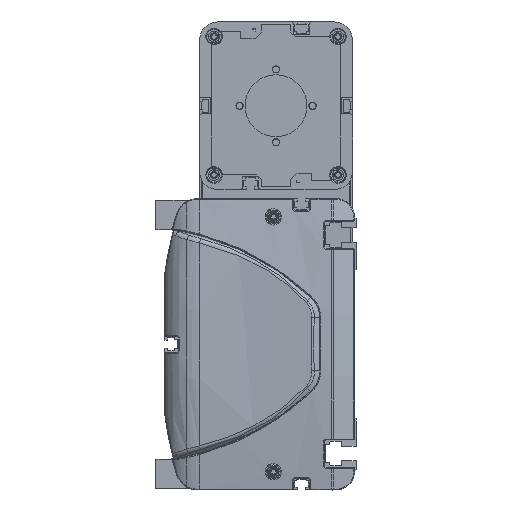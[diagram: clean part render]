
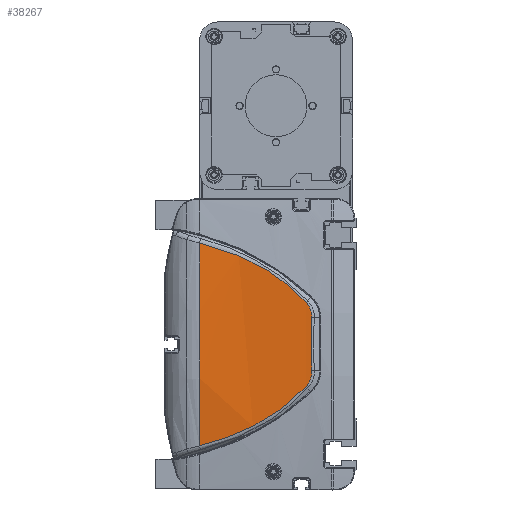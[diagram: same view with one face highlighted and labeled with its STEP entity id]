
A CAD part, left-side view. The second image highlights one B-rep face of the part: STEP entity #38267.
In plain terms, the highlighted cylindrical face has radius 600 mm (diameter 1200 mm), a partial arc.
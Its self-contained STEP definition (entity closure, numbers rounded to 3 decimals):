
#9556=CARTESIAN_POINT('',(-12.406,86.,55.736));
#9557=CARTESIAN_POINT('',(-12.529,80.495,54.41));
#9558=CARTESIAN_POINT('',(-12.828,69.636,51.114));
#9559=CARTESIAN_POINT('',(-13.389,54.079,44.179));
#9560=CARTESIAN_POINT('',(-14.01,39.709,34.979));
#9561=CARTESIAN_POINT('',(-14.395,31.353,27.243));
#9562=CARTESIAN_POINT('',(-14.555,27.451,23.113));
#9564=CARTESIAN_POINT('',(-14.555,27.451,23.113));
#9565=CARTESIAN_POINT('',(-14.598,26.394,21.994));
#9566=CARTESIAN_POINT('',(-14.695,24.746,19.315));
#9567=CARTESIAN_POINT('',(-14.783,24.276,16.208));
#9568=CARTESIAN_POINT('',(-14.821,24.351,14.67));
#9570=CARTESIAN_POINT('',(-14.821,24.351,14.67));
#9571=CARTESIAN_POINT('',(-14.9,24.51,11.413));
#9572=CARTESIAN_POINT('',(-15.007,24.721,4.895));
#9573=CARTESIAN_POINT('',(-15.007,24.721,
-4.895));
#9574=CARTESIAN_POINT('',(-14.9,24.51,
-11.413));
#9575=CARTESIAN_POINT('',(-14.821,24.351,
-14.67));
#9577=CARTESIAN_POINT('',(-14.821,24.351,
-14.67));
#9578=CARTESIAN_POINT('',(-14.783,24.276,
-16.208));
#9579=CARTESIAN_POINT('',(-14.695,24.746,
-19.315));
#9580=CARTESIAN_POINT('',(-14.598,26.394,
-21.995));
#9581=CARTESIAN_POINT('',(-14.555,27.451,
-23.113));
#9583=CARTESIAN_POINT('',(-14.555,27.451,
-23.113));
#9584=CARTESIAN_POINT('',(-14.395,31.353,
-27.243));
#9585=CARTESIAN_POINT('',(-14.01,39.709,
-34.979));
#9586=CARTESIAN_POINT('',(-13.389,54.079,
-44.179));
#9587=CARTESIAN_POINT('',(-12.828,69.636,
-51.114));
#9588=CARTESIAN_POINT('',(-12.529,80.495,
-54.41));
#9589=CARTESIAN_POINT('',(-12.406,86.,
-55.736));
#9591=CARTESIAN_POINT('',(585.,86.,0.));
#9592=DIRECTION('',(0.,1.,0.));
#9593=DIRECTION('',(-0.996,0.,-0.093));
#9594=AXIS2_PLACEMENT_3D('',#9591,#9592,#9593);
#9607=CARTESIAN_POINT('',(-12.406,86.,55.736));
#21534=VERTEX_POINT('',#9607);
#21535=CARTESIAN_POINT('',(-12.406,86.,
-55.736));
#21536=VERTEX_POINT('',#21535);
#21586=VERTEX_POINT('',#9562);
#21587=VERTEX_POINT('',#9568);
#21588=VERTEX_POINT('',#9575);
#21589=VERTEX_POINT('',#9581);
#38249=CARTESIAN_POINT('',(585.,87.45,0.));
#38250=DIRECTION('',(0.,-1.,0.));
#38251=DIRECTION('',(0.,0.,-1.));
#38252=AXIS2_PLACEMENT_3D('',#38249,#38250,#38251);
#38253=CYLINDRICAL_SURFACE('',#38252,600.);
#38255=ORIENTED_EDGE('',*,*,#38254,.T.);
#38257=ORIENTED_EDGE('',*,*,#38256,.T.);
#38259=ORIENTED_EDGE('',*,*,#38258,.T.);
#38260=ORIENTED_EDGE('',*,*,#38239,.T.);
#38262=ORIENTED_EDGE('',*,*,#38261,.T.);
#38264=ORIENTED_EDGE('',*,*,#38263,.T.);
#38265=EDGE_LOOP('',(#38255,#38257,#38259,#38260,#38262,#38264));
#38266=FACE_OUTER_BOUND('',#38265,.F.);
#38267=ADVANCED_FACE('',(#38266),#38253,.T.);
#9563=B_SPLINE_CURVE_WITH_KNOTS('',3,(#9556,#9557,#9558,#9559,#9560,#9561,
#9562),.UNSPECIFIED.,.F.,.F.,(4,1,1,1,4),(0.,0.25,0.5,0.75,1.),
.UNSPECIFIED.);
#9569=B_SPLINE_CURVE_WITH_KNOTS('',3,(#9564,#9565,#9566,#9567,#9568),
.UNSPECIFIED.,.F.,.F.,(4,1,4),(0.,0.5,1.),.UNSPECIFIED.);
#9576=B_SPLINE_CURVE_WITH_KNOTS('',3,(#9570,#9571,#9572,#9573,#9574,#9575),
.UNSPECIFIED.,.F.,.F.,(4,1,1,4),(0.,0.333,0.667,1.),
.UNSPECIFIED.);
#9582=B_SPLINE_CURVE_WITH_KNOTS('',3,(#9577,#9578,#9579,#9580,#9581),
.UNSPECIFIED.,.F.,.F.,(4,1,4),(0.,0.5,1.),.UNSPECIFIED.);
#9590=B_SPLINE_CURVE_WITH_KNOTS('',3,(#9583,#9584,#9585,#9586,#9587,#9588,
#9589),.UNSPECIFIED.,.F.,.F.,(4,1,1,1,4),(0.,0.25,0.5,0.75,1.),
.UNSPECIFIED.);
#9595=CIRCLE('',#9594,600.);
#38239=EDGE_CURVE('',#21588,#21589,#9582,.T.);
#38254=EDGE_CURVE('',#21534,#21586,#9563,.T.);
#38256=EDGE_CURVE('',#21586,#21587,#9569,.T.);
#38258=EDGE_CURVE('',#21587,#21588,#9576,.T.);
#38261=EDGE_CURVE('',#21589,#21536,#9590,.T.);
#38263=EDGE_CURVE('',#21536,#21534,#9595,.T.);
